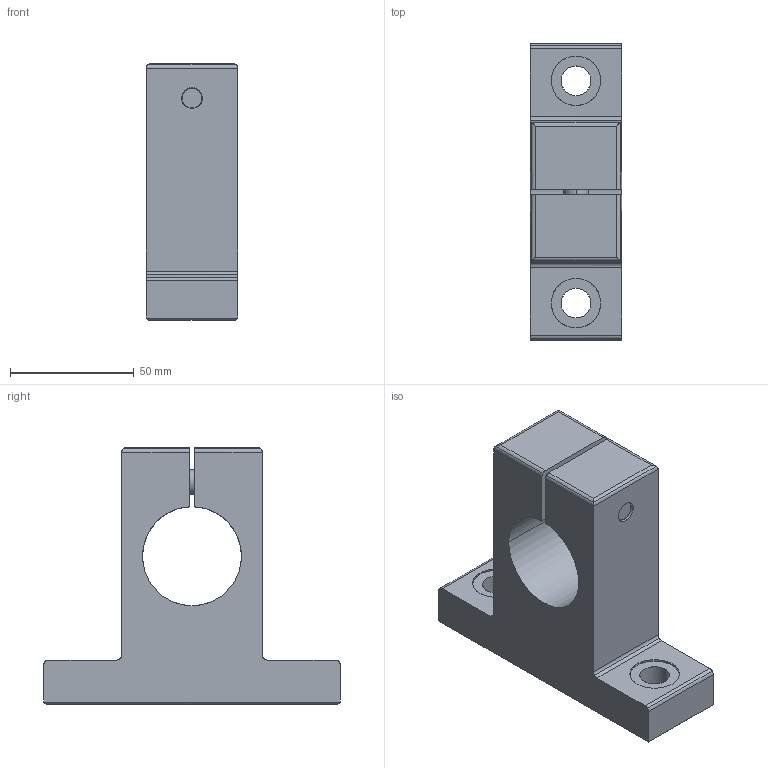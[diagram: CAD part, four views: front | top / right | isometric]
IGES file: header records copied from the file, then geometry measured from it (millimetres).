
Global section: file name: No Iges File Name specified; native system: AutoDesk Inventor R10; preprocessor: AutoDesk Inventor Iges Exporter R10; author: No Author specified; organization: No Organization specified; date: 20101214.152659; units: millimetre
Bounding box: 37 x 120 x 104 mm (x, y, z)
Surface area: 37135.3 mm2 (no closed solid volume)
Topology: 0 solids, 0 shells, 76 faces, 464 edges, 462 vertices
Faces by surface type: bspline 76
